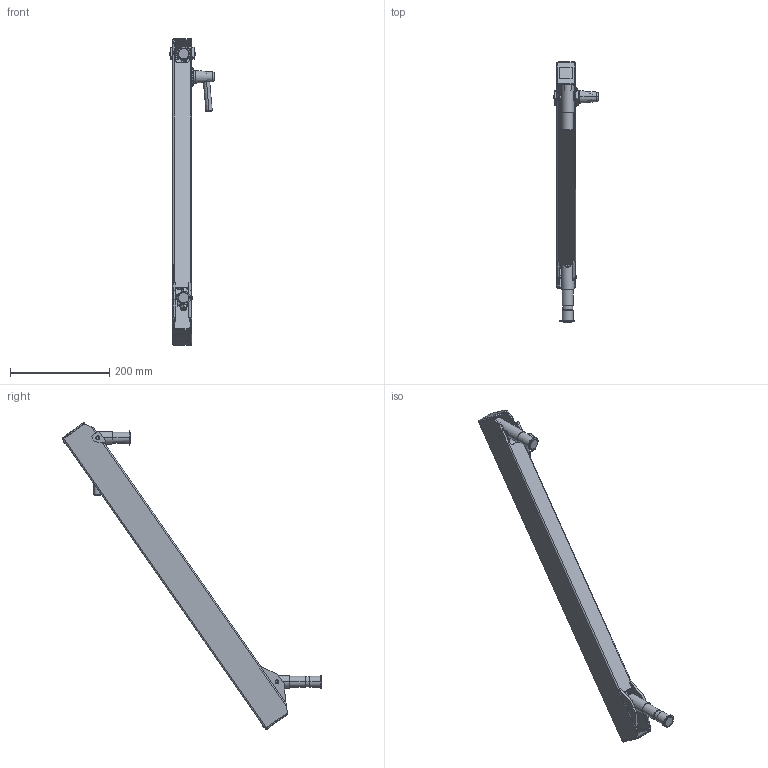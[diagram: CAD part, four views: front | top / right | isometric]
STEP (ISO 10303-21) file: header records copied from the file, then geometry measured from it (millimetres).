
FILE_DESCRIPTION (( 'STEP AP203' ), '1' );
FILE_NAME ('70-2445-00 REV AA, FLEX SECTION, 24in, 20-45 LB - UP.STEP', '2025-06-17T23:55:04', ( '' ), ( '' ), 'SwSTEP 2.0', 'SolidWorks 2025', '' );
FILE_SCHEMA (( 'CONFIG_CONTROL_DESIGN' ));
Length unit declared in the file: inch
Products named in the file (37): 013-036-00, SPRING, GREEN, 1x8_ISO425203; 71-0057-WDX REV AA, GUIDE WELDMENT, 24in DOUBLE SPRING GUIDE; 71-0058-RX REV AA, BAR, GUIDE, 24in DOUBLE SPRING; 71-0030-RX REV AA, KNUCKLE, LOAD_MACHINE; 71-1051-RX REV AA, SPRING BLOCK; 70-2445-00 REV AA,  FLEX SECTION, 24in, 20-45 LB - UP; 002-041-00_002-041-00; 005-084-00, BOLT, 1''4-20x2.75; 71-2400-RX REV AA, HOUSING, 24in FLEX; 016-070-00, BEARING, PLASTIC, .5ID x .625 OD x .75; 71-0040-RX REV AA, BRAKE BLOCK, WIDE_MACHINE; 010-012-00, RETAINING RING, EXTERNAL, .875in SHAFT; 71-0038-RX REV AA, PIVOT, KNUCKLE, ELECTROLESS NICKEL; 11-0650-00 REV AA, BRAKE HANDLE ASSEMBLY; 007-036-00, SHSS, 1''4-28, .25L_007-036-00; 71-0029-RX REV AA, TAB, LOAD; 010-011-00, RETAINING RING, EXT, .250 SHAFT_010-011-00; 71-0037-75 REV 1, PIVOT, THREADED, SS_MACHINE; 71-0060-00; 11-0601-99 REV AA, CONICAL KNOB, BRAKE ASSEMBLY; 011-033-00; 71-0071-RX REV AA, AXLE PIN, LONG; 71-0031-RX REV AA, KNUCKLE, MOUNT_MACHINE; 71-0972-99 REV 1, END CAP, FLEX; 71-0059-RX REV AA, BUSHING, GUIDE, 24in DOUBLE SPRING; 71-2401-BLKX REV AA, FLEX HOUSING, 24in, BLACK; 11-0027-RX REV AA, PLASTIC DISC, BRAKE ASSEMBLY_MACHINE; 71-0028-RX REV AA, TAB, MOUNT_MACHINE; 006-059-00; 71-0070-RX REV AA, AXLE PIN, SHORT; 71-2033-99 REV AA, BOLT, ADJUSTING, 12.120; 004-144-00; 71-3032-RX REV AA, SPRING ROD, 24in FLEX; 11-020-RX REV AA, PIN, KNURLED, 1.0LG x .25OD; 006-004-00_006-004-00; 11-0602-RX REV AA, HANDLE, BRAKE ASSEMBLY; 004-050-00, WASHER, FIBER, .032 THK, .265ID
Assembly tree (61 placements, depth 3):
  70-2445-00 REV AA,  FLEX SECTION, 24in, 20-45 LB - UP
    71-0031-RX REV AA, KNUCKLE, MOUNT_MACHINE
    71-1051-RX REV AA, SPRING BLOCK
    71-3032-RX REV AA, SPRING ROD, 24in FLEX
    71-0030-RX REV AA, KNUCKLE, LOAD_MACHINE
    71-0038-RX REV AA, PIVOT, KNUCKLE, ELECTROLESS NICKEL
    71-0037-75 REV 1, PIVOT, THREADED, SS_MACHINE
    71-0040-RX REV AA, BRAKE BLOCK, WIDE_MACHINE
    71-2033-99 REV AA, BOLT, ADJUSTING, 12.120
    71-2401-BLKX REV AA, FLEX HOUSING, 24in, BLACK
      71-2400-RX REV AA, HOUSING, 24in FLEX
      71-0029-RX REV AA, TAB, LOAD  x2
      71-0028-RX REV AA, TAB, MOUNT_MACHINE  x2
    71-0070-RX REV AA, AXLE PIN, SHORT
    71-0071-RX REV AA, AXLE PIN, LONG
    71-0972-99 REV 1, END CAP, FLEX  x2
    11-0027-RX REV AA, PLASTIC DISC, BRAKE ASSEMBLY_MACHINE
    71-0057-WDX REV AA, GUIDE WELDMENT, 24in DOUBLE SPRING GUIDE
      71-0058-RX REV AA, BAR, GUIDE, 24in DOUBLE SPRING
      71-0059-RX REV AA, BUSHING, GUIDE, 24in DOUBLE SPRING  x2
    71-0060-00  x2
    11-0650-00 REV AA, BRAKE HANDLE ASSEMBLY
      11-0601-99 REV AA, CONICAL KNOB, BRAKE ASSEMBLY
      11-0602-RX REV AA, HANDLE, BRAKE ASSEMBLY
      11-0027-RX REV AA, PLASTIC DISC, BRAKE ASSEMBLY_MACHINE
      005-084-00, BOLT, 1''4-20x2.75
    010-012-00, RETAINING RING, EXTERNAL, .875in SHAFT  x2
    013-036-00, SPRING, GREEN, 1x8_ISO425203  x2
    010-011-00, RETAINING RING, EXT, .250 SHAFT_010-011-00  x4
    007-036-00, SHSS, 1''4-28, .25L_007-036-00
    016-070-00, BEARING, PLASTIC, .5ID x .625 OD x .75  x2
    004-050-00, WASHER, FIBER, .032 THK, .265ID  x8
    011-033-00  x2
    11-020-RX REV AA, PIN, KNURLED, 1.0LG x .25OD  x2
    004-144-00  x3
    006-059-00
    006-004-00_006-004-00  x2
    002-041-00_002-041-00  x2
Bounding box: 91.63 x 522.84 x 617.51 mm (x, y, z)
Volume: 699230.7 mm3; surface area: 477807.7 mm2
Topology: 61 solids, 61 shells, 1193 faces, 2894 edges, 1822 vertices
Faces by surface type: cylinder 488, plane 404, cone 217, torus 45, bspline 33, sphere 6
Entity records: 65344 total; most frequent: CARTESIAN_POINT 41759, ORIENTED_EDGE 3964, DIRECTION 3955, EDGE_CURVE 1982, AXIS2_PLACEMENT_3D 1519, VERTEX_POINT 1246, LINE 917, VECTOR 917
